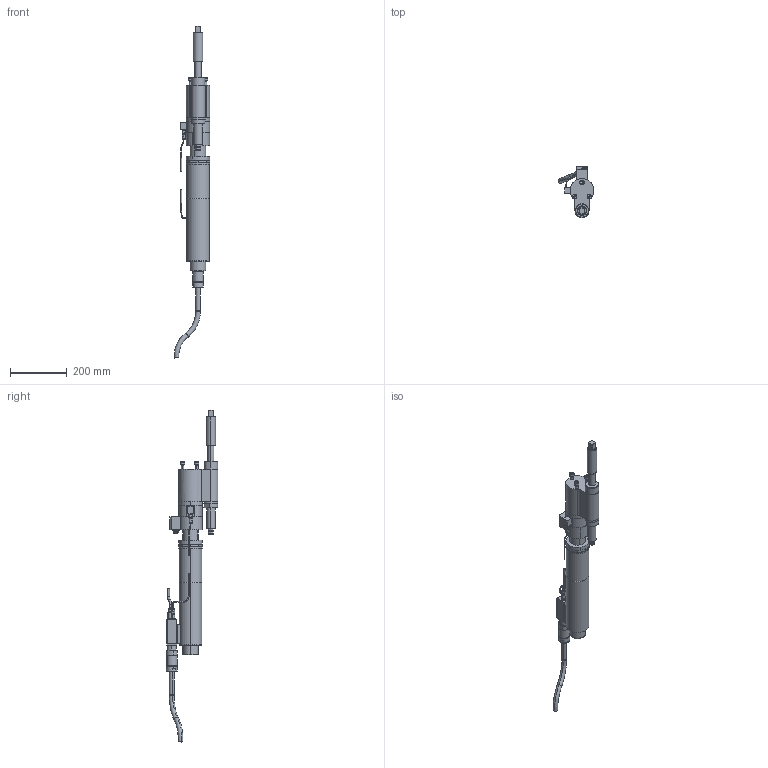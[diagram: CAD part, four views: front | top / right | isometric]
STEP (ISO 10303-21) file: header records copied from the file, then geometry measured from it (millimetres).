
FILE_DESCRIPTION(('CATIA V5 STEP'),'2;1');
FILE_NAME('O:\3D-Schrauber\stp\7920253_ECR326_DWR300_W3_AOD350-300_AllCATPart.stp','2010-05-05T11:01:17+00:00',('none'),('none'),'CATIA Version 5 Release 19 SP 3 (IN-10)','CATIA V5 STEP AP214','none');
FILE_SCHEMA(('AUTOMOTIVE_DESIGN { 1 0 10303 214 1 1 1 1 }'));
Length unit declared in the file: millimetre
Products named in the file (1): 7920253_ECR326_DWR300_W3_AOD350-300_AllCATPart
Bounding box: 125.32 x 182.98 x 1169.66 mm (x, y, z)
Volume: 4243489.4 mm3; surface area: 366364.4 mm2
Topology: 23 solids, 23 shells, 557 faces, 1237 edges, 775 vertices
Faces by surface type: plane 247, cylinder 196, cone 70, torus 40, bspline 4
Entity records: 14809 total; most frequent: CARTESIAN_POINT 3087, ORIENTED_EDGE 2462, DIRECTION 2011, EDGE_CURVE 1231, AXIS2_PLACEMENT_3D 1005, VERTEX_POINT 775, EDGE_LOOP 612, VECTOR 591
